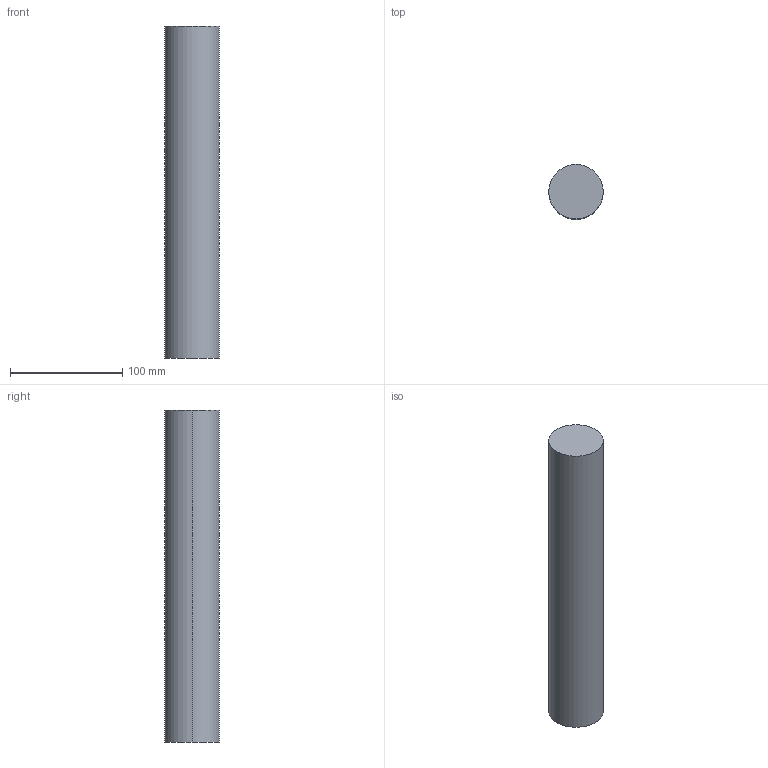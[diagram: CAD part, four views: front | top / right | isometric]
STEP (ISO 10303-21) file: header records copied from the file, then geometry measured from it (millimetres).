
FILE_DESCRIPTION (( 'STEP AP203' ), '1' );
FILE_NAME ('ƒpƒCƒv486.STEP', '2022-05-30T00:45:48', ( '' ), ( '' ), 'SwSTEP 2.0', 'SolidWorks 2017', '' );
FILE_SCHEMA (( 'CONFIG_CONTROL_DESIGN' ));
Length unit declared in the file: millimetre
Products named in the file (1): パイプ486
Bounding box: 48.6 x 48.6 x 296 mm (x, y, z)
Volume: 549103.4 mm3; surface area: 48903.9 mm2
Topology: 1 solids, 1 shells, 4 faces, 6 edges, 4 vertices
Faces by surface type: cylinder 2, plane 2
Entity records: 171 total; most frequent: DIRECTION 20, CARTESIAN_POINT 15, ORIENTED_EDGE 12, AXIS2_PLACEMENT_3D 9, PERSON_AND_ORGANIZATION 8, EDGE_CURVE 6, CALENDAR_DATE 5, LOCAL_TIME 5
